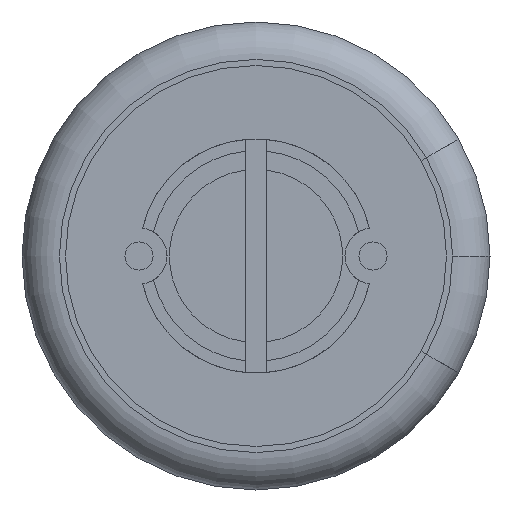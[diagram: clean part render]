
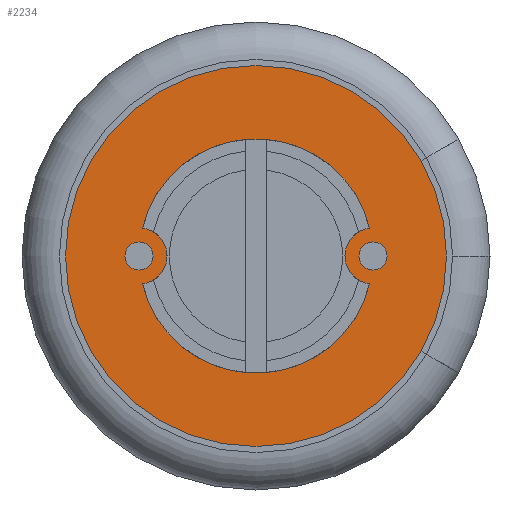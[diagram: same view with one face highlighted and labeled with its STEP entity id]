
A CAD part, front view. The second image highlights one B-rep face of the part: STEP entity #2234.
In plain terms, the highlighted planar face has unit normal (0, -1, 0).
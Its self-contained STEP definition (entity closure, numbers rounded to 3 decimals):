
#8 = CIRCLE ( 'NONE', #1387, 4.07 ) ;
#135 = EDGE_CURVE ( 'NONE', #261, #2160, #2670, .T. ) ;
#179 = AXIS2_PLACEMENT_3D ( 'NONE', #1259, #1036, #2823 ) ;
#231 = ORIENTED_EDGE ( 'NONE', *, *, #135, .F. ) ;
#241 = DIRECTION ( 'NONE',  ( 0., -1., 0. ) ) ;
#261 = VERTEX_POINT ( 'NONE', #1721 ) ;
#282 = ORIENTED_EDGE ( 'NONE', *, *, #1607, .F. ) ;
#310 = CIRCLE ( 'NONE', #1143, 4.07 ) ;
#333 = CARTESIAN_POINT ( 'NONE',  ( 0., 0.95, 0. ) ) ;
#335 = EDGE_CURVE ( 'NONE', #778, #261, #2600, .T. ) ;
#337 = CARTESIAN_POINT ( 'NONE',  ( -2.428, 0.95, 0.596 ) ) ;
#349 = CARTESIAN_POINT ( 'NONE',  ( 4.07, 0.95, 0. ) ) ;
#431 = DIRECTION ( 'NONE',  ( 0., -1., 0. ) ) ;
#449 = ORIENTED_EDGE ( 'NONE', *, *, #521, .T. ) ;
#490 = CARTESIAN_POINT ( 'NONE',  ( 0., 0.95, 0. ) ) ;
#493 = ORIENTED_EDGE ( 'NONE', *, *, #1786, .T. ) ;
#521 = EDGE_CURVE ( 'NONE', #2136, #1291, #925, .T. ) ;
#614 = DIRECTION ( 'NONE',  ( -1., 0., 0. ) ) ;
#687 = AXIS2_PLACEMENT_3D ( 'NONE', #2080, #1183, #1403 ) ;
#743 = CARTESIAN_POINT ( 'NONE',  ( 0., 0.95, 0. ) ) ;
#778 = VERTEX_POINT ( 'NONE', #1081 ) ;
#809 = ORIENTED_EDGE ( 'NONE', *, *, #1649, .T. ) ;
#911 = CARTESIAN_POINT ( 'NONE',  ( 0., 0.95, 0. ) ) ;
#925 = CIRCLE ( 'NONE', #687, 4.07 ) ;
#930 = DIRECTION ( 'NONE',  ( 0., -1., 0. ) ) ;
#1014 = CARTESIAN_POINT ( 'NONE',  ( 3.525, 0.95, -2.035 ) ) ;
#1036 = DIRECTION ( 'NONE',  ( 0., 1., 0. ) ) ;
#1081 = CARTESIAN_POINT ( 'NONE',  ( 2.428, 0.95, 0.596 ) ) ;
#1111 = DIRECTION ( 'NONE',  ( -1., 0., 0. ) ) ;
#1143 = AXIS2_PLACEMENT_3D ( 'NONE', #333, #1179, #1412 ) ;
#1145 = ORIENTED_EDGE ( 'NONE', *, *, #1865, .F. ) ;
#1160 = DIRECTION ( 'NONE',  ( 1., 0., 0. ) ) ;
#1179 = DIRECTION ( 'NONE',  ( 0., -1., 0. ) ) ;
#1183 = DIRECTION ( 'NONE',  ( 0., -1., 0. ) ) ;
#1204 = ORIENTED_EDGE ( 'NONE', *, *, #335, .F. ) ;
#1226 = ORIENTED_EDGE ( 'NONE', *, *, #2014, .T. ) ;
#1253 = DIRECTION ( 'NONE',  ( 0., -1., 0. ) ) ;
#1255 = VERTEX_POINT ( 'NONE', #1810 ) ;
#1259 = CARTESIAN_POINT ( 'NONE',  ( 0., 0.95, 0. ) ) ;
#1267 = CARTESIAN_POINT ( 'NONE',  ( 0., 0.95, 0. ) ) ;
#1291 = VERTEX_POINT ( 'NONE', #2773 ) ;
#1312 = CIRCLE ( 'NONE', #2696, 2.5 ) ;
#1370 = FACE_OUTER_BOUND ( 'NONE', #1990, .T. ) ;
#1387 = AXIS2_PLACEMENT_3D ( 'NONE', #490, #930, #1160 ) ;
#1403 = DIRECTION ( 'NONE',  ( 1., 0., 0. ) ) ;
#1404 = AXIS2_PLACEMENT_3D ( 'NONE', #1267, #1253, #614 ) ;
#1412 = DIRECTION ( 'NONE',  ( 1., 0., 0. ) ) ;
#1452 = AXIS2_PLACEMENT_3D ( 'NONE', #2810, #1460, #2603 ) ;
#1460 = DIRECTION ( 'NONE',  ( 0., 1., 0. ) ) ;
#1463 = PLANE ( 'NONE',  #179 ) ;
#1467 = VERTEX_POINT ( 'NONE', #2571 ) ;
#1607 = EDGE_CURVE ( 'NONE', #1255, #1467, #1312, .T. ) ;
#1649 = EDGE_CURVE ( 'NONE', #1291, #1741, #8, .T. ) ;
#1721 = CARTESIAN_POINT ( 'NONE',  ( 0., 0.95, 2.5 ) ) ;
#1740 = CARTESIAN_POINT ( 'NONE',  ( 2.5, 0.95, 0. ) ) ;
#1741 = VERTEX_POINT ( 'NONE', #1014 ) ;
#1769 = FACE_BOUND ( 'NONE', #2158, .T. ) ;
#1786 = EDGE_CURVE ( 'NONE', #1741, #2136, #310, .T. ) ;
#1810 = CARTESIAN_POINT ( 'NONE',  ( -2.428, 0.95, -0.596 ) ) ;
#1865 = EDGE_CURVE ( 'NONE', #2160, #1255, #2645, .T. ) ;
#1972 = CIRCLE ( 'NONE', #2440, 0.6 ) ;
#1990 = EDGE_LOOP ( 'NONE', ( #809, #493, #449 ) ) ;
#2014 = EDGE_CURVE ( 'NONE', #778, #1467, #1972, .T. ) ;
#2080 = CARTESIAN_POINT ( 'NONE',  ( 0., 0.95, 0. ) ) ;
#2091 = AXIS2_PLACEMENT_3D ( 'NONE', #911, #241, #1111 ) ;
#2136 = VERTEX_POINT ( 'NONE', #349 ) ;
#2158 = EDGE_LOOP ( 'NONE', ( #1145, #231, #1204, #1226, #282 ) ) ;
#2160 = VERTEX_POINT ( 'NONE', #337 ) ;
#2234 = ADVANCED_FACE ( 'NONE', ( #1769, #1370 ), #1463, .F. ) ;
#2277 = DIRECTION ( 'NONE',  ( 0., -1., 0. ) ) ;
#2392 = DIRECTION ( 'NONE',  ( -1., 0., 0. ) ) ;
#2440 = AXIS2_PLACEMENT_3D ( 'NONE', #1740, #431, #2392 ) ;
#2571 = CARTESIAN_POINT ( 'NONE',  ( 2.428, 0.95, -0.596 ) ) ;
#2600 = CIRCLE ( 'NONE', #2091, 2.5 ) ;
#2603 = DIRECTION ( 'NONE',  ( -1., 0., 0. ) ) ;
#2645 = CIRCLE ( 'NONE', #1452, 0.6 ) ;
#2670 = CIRCLE ( 'NONE', #1404, 2.5 ) ;
#2696 = AXIS2_PLACEMENT_3D ( 'NONE', #743, #2277, #2712 ) ;
#2712 = DIRECTION ( 'NONE',  ( -1., 0., 0. ) ) ;
#2773 = CARTESIAN_POINT ( 'NONE',  ( 3.525, 0.95, 2.035 ) ) ;
#2810 = CARTESIAN_POINT ( 'NONE',  ( -2.5, 0.95, 0. ) ) ;
#2823 = DIRECTION ( 'NONE',  ( -1., 0., 0. ) ) ;
